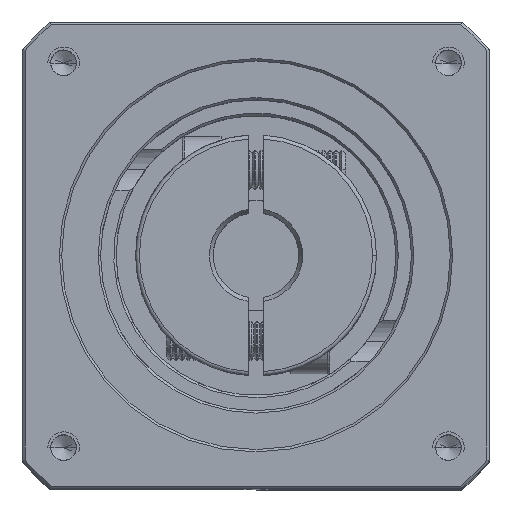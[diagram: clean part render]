
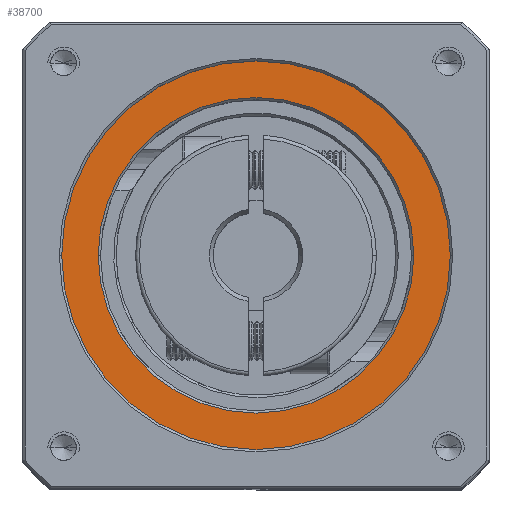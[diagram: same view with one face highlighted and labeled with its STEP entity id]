
A CAD part, top view. The second image highlights one B-rep face of the part: STEP entity #38700.
In plain terms, the highlighted planar face has unit normal (0, 0, 1).
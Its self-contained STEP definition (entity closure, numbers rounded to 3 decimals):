
#2207 = FACE_BOUND ( 'NONE', #94745, .T. ) ;
#4425 = AXIS2_PLACEMENT_3D ( 'NONE', #88362, #63208, #95803 ) ;
#10602 = CIRCLE ( 'NONE', #96271, 25. ) ;
#11290 = CARTESIAN_POINT ( 'NONE',  ( -47.069, 33.271, -4.382 ) ) ;
#11461 = ORIENTED_EDGE ( 'NONE', *, *, #14856, .T. ) ;
#13049 = AXIS2_PLACEMENT_3D ( 'NONE', #85438, #22410, #70708 ) ;
#13689 = PLANE ( 'NONE',  #13049 ) ;
#14856 = EDGE_CURVE ( 'NONE', #62504, #84892, #76966, .T. ) ;
#15107 = EDGE_CURVE ( 'NONE', #84892, #62504, #10602, .T. ) ;
#18910 = EDGE_LOOP ( 'NONE', ( #11461, #89219 ) ) ;
#22410 = DIRECTION ( 'NONE',  ( 0., 0., 1. ) ) ;
#22687 = ORIENTED_EDGE ( 'NONE', *, *, #85006, .T. ) ;
#22799 = DIRECTION ( 'NONE',  ( 1., 0., 0. ) ) ;
#26958 = DIRECTION ( 'NONE',  ( 1., 0., 0. ) ) ;
#35737 = CIRCLE ( 'NONE', #59309, 20.3 ) ;
#38700 = ADVANCED_FACE ( 'NONE', ( #2207, #101122 ), #13689, .T. ) ;
#48007 = EDGE_CURVE ( 'NONE', #97820, #83776, #35737, .T. ) ;
#50512 = DIRECTION ( 'NONE',  ( 0., 0., 1. ) ) ;
#53185 = CARTESIAN_POINT ( 'NONE',  ( -26.769, 33.271, -4.382 ) ) ;
#53267 = CARTESIAN_POINT ( 'NONE',  ( -72.069, 33.271, -4.382 ) ) ;
#59309 = AXIS2_PLACEMENT_3D ( 'NONE', #11290, #60621, #59892 ) ;
#59892 = DIRECTION ( 'NONE',  ( 1., 0., 0. ) ) ;
#60621 = DIRECTION ( 'NONE',  ( 0., 0., -1. ) ) ;
#62504 = VERTEX_POINT ( 'NONE', #81335 ) ;
#63208 = DIRECTION ( 'NONE',  ( 0., 0., 1. ) ) ;
#70708 = DIRECTION ( 'NONE',  ( 1., 0., 0. ) ) ;
#71411 = CARTESIAN_POINT ( 'NONE',  ( -47.069, 33.271, -4.382 ) ) ;
#76966 = CIRCLE ( 'NONE', #4425, 25. ) ;
#81335 = CARTESIAN_POINT ( 'NONE',  ( -22.069, 33.271, -4.382 ) ) ;
#83728 = CARTESIAN_POINT ( 'NONE',  ( -47.069, 33.271, -4.382 ) ) ;
#83776 = VERTEX_POINT ( 'NONE', #53185 ) ;
#84892 = VERTEX_POINT ( 'NONE', #53267 ) ;
#85006 = EDGE_CURVE ( 'NONE', #83776, #97820, #90414, .T. ) ;
#85438 = CARTESIAN_POINT ( 'NONE',  ( -47.069, 33.271, -4.382 ) ) ;
#88362 = CARTESIAN_POINT ( 'NONE',  ( -47.069, 33.271, -4.382 ) ) ;
#88690 = CARTESIAN_POINT ( 'NONE',  ( -67.369, 33.271, -4.382 ) ) ;
#89219 = ORIENTED_EDGE ( 'NONE', *, *, #15107, .T. ) ;
#90369 = AXIS2_PLACEMENT_3D ( 'NONE', #71411, #95313, #22799 ) ;
#90414 = CIRCLE ( 'NONE', #90369, 20.3 ) ;
#94745 = EDGE_LOOP ( 'NONE', ( #22687, #95261 ) ) ;
#95261 = ORIENTED_EDGE ( 'NONE', *, *, #48007, .T. ) ;
#95313 = DIRECTION ( 'NONE',  ( 0., 0., -1. ) ) ;
#95803 = DIRECTION ( 'NONE',  ( 1., 0., 0. ) ) ;
#96271 = AXIS2_PLACEMENT_3D ( 'NONE', #83728, #50512, #26958 ) ;
#97820 = VERTEX_POINT ( 'NONE', #88690 ) ;
#101122 = FACE_OUTER_BOUND ( 'NONE', #18910, .T. ) ;
